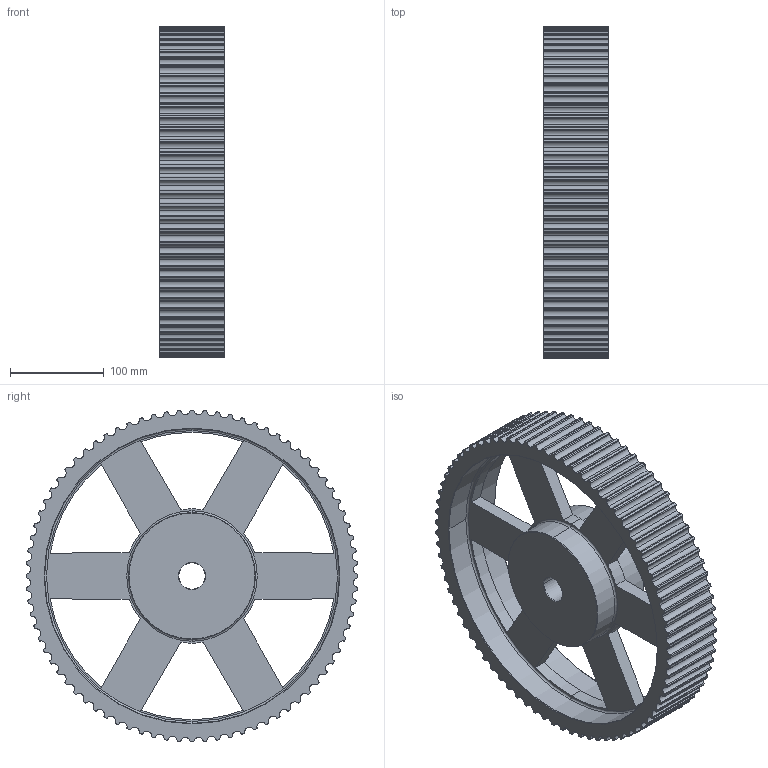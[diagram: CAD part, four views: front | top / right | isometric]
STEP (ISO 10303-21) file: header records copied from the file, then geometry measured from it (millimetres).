
FILE_DESCRIPTION(('STEP AP203'),'1');
FILE_NAME('80_-_14_m_55.stp','2019-06-24T07:19:12',('TraceParts'),('TraceParts S.A.'),'Spatial InterOp 3D',' ',' ');
FILE_SCHEMA(('CONFIG_CONTROL_DESIGN'));
Length unit declared in the file: millimetre
Products named in the file (1): 1
Bounding box: 70 x 353.71 x 353.71 mm (x, y, z)
Volume: 2628048.4 mm3; surface area: 333948.4 mm2
Topology: 1 solids, 1 shells, 464 faces, 1362 edges, 904 vertices
Faces by surface type: cylinder 426, plane 18, cone 12, torus 8
Entity records: 16030 total; most frequent: DIRECTION 3180, CARTESIAN_POINT 2731, ORIENTED_EDGE 2724, EDGE_CURVE 1362, AXIS2_PLACEMENT_3D 1353, VERTEX_POINT 904, CIRCLE 888, EDGE_LOOP 482
